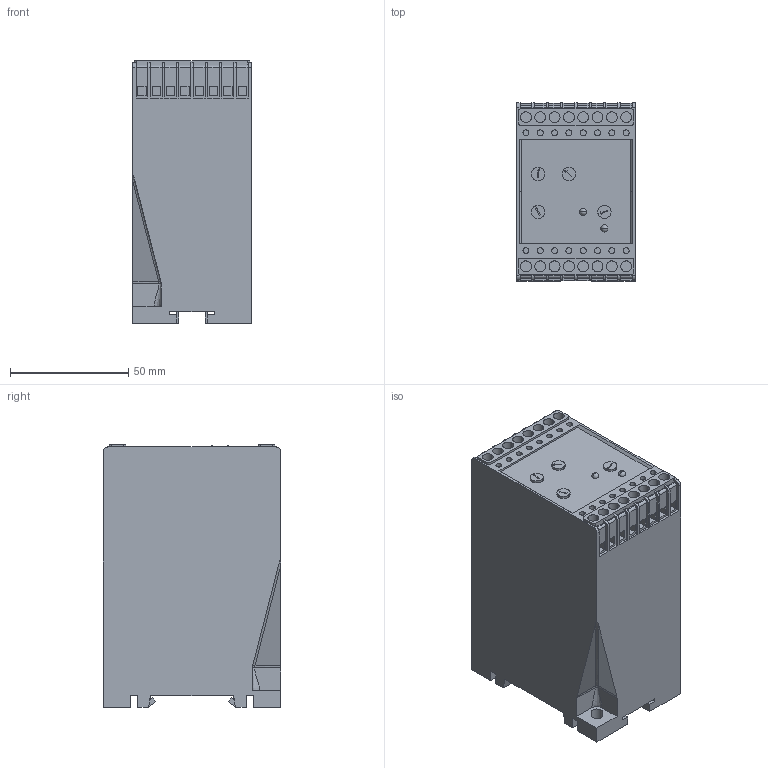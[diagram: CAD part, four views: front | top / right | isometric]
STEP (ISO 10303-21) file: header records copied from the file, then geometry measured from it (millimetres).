
FILE_DESCRIPTION (( 'STEP AP214' ), '1' );
FILE_NAME ('SSU34.STEP', '2024-04-15T09:51:43', ( '' ), ( '' ), 'SwSTEP 2.0', 'SolidWorks 2022', '' );
FILE_SCHEMA (( 'AUTOMOTIVE_DESIGN' ));
Length unit declared in the file: millimetre
Products named in the file (1): SSU34
Bounding box: 50 x 75 x 111 mm (x, y, z)
Volume: 385148.4 mm3; surface area: 42076 mm2
Topology: 1 solids, 1 shells, 499 faces, 1312 edges, 866 vertices
Faces by surface type: plane 359, cylinder 126, bspline 10, sphere 4
Entity records: 17711 total; most frequent: CARTESIAN_POINT 2872, ORIENTED_EDGE 2608, DIRECTION 2534, EDGE_CURVE 1304, LINE 1006, VECTOR 1006, VERTEX_POINT 862, AXIS2_PLACEMENT_3D 764
